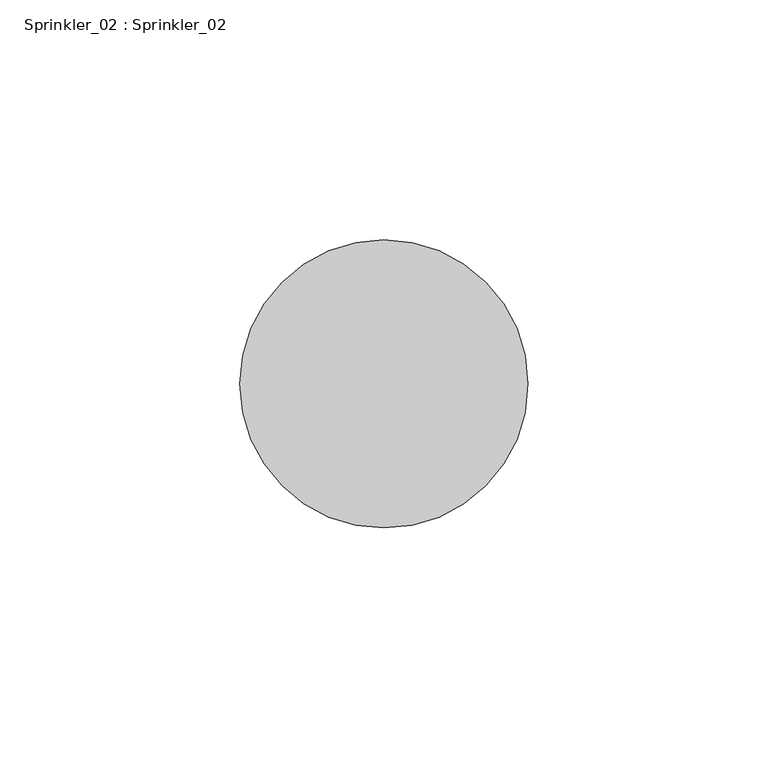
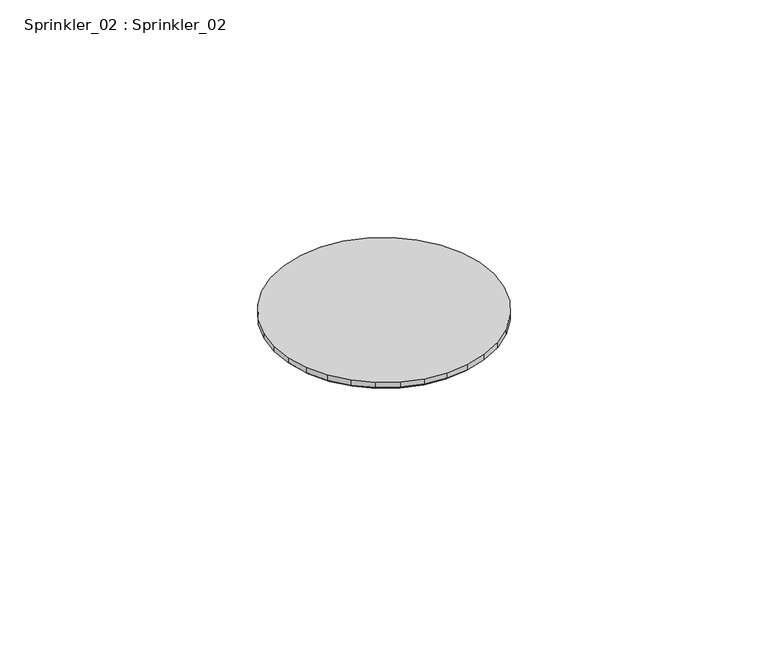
"""IFC4 building model written with IfcOpenShell, lengths in millimetres: fire suppression terminal geometry, Sprinkler_02 : Sprinkler_02."""

from ifc_helpers import new_model, si_unit, frame, origin, place, context, project, spatial, polyline, outline, extrude, faceted_brep, source, transform, mapped, element, save


def sprinkler_02_sprinkler_02_4dfef579(model_context):
    return source(origin(), model_context, "Body", "SolidModel", [
        extrude(outline(polyline([(-2.0098133, -10.1040136), (-3.9423905, -9.5177727), (-5.723464, -8.5657691), (-7.2845879, -7.2845879), (-8.5657691, -5.723464), (-9.5177727, -3.9423905), (-10.1040136, -2.0098133), (-10.301963, 0.0), (-10.1040136, 2.0098133), (-9.5177727, 3.9423905), (-8.5657691, 5.723464), (-7.2845879, 7.2845879), (-5.723464, 8.5657691), (-3.9423905, 9.5177727), (-2.0098133, 10.1040136), (0.0, 10.301963), (2.0098133, 10.1040136), (3.9423905, 9.5177727), (5.723464, 8.5657691), (7.2845879, 7.2845879), (8.5657691, 5.723464), (9.5177727, 3.9423905), (10.1040136, 2.0098133), (10.301963, 0.0), (10.1040136, -2.0098133), (9.5177727, -3.9423905), (8.5657691, -5.723464), (7.2845879, -7.2845879), (5.723464, -8.5657691), (3.9423905, -9.5177727), (2.0098133, -10.1040136), (0.0, -10.301963), (-2.0098133, -10.1040136)])), frame((0.0, 0.0, 3987.9870605), z_axis=(0.0, 0.0, 1.0), x_axis=(1.0, 0.0, 0.0)), (0.0, 0.0, 1.0), 7.3880005),
        extrude(outline(polyline([(-2.4026821, -12.0790986), (-4.7130305, -11.3782621), (-6.8422597, -10.2401653), (-8.7085448, -8.7085448), (-10.2401653, -6.8422597), (-11.3782621, -4.7130305), (-12.0790986, -2.4026821), (-12.3157421, 0.0), (-12.0790986, 2.4026821), (-11.3782621, 4.7130305), (-10.2401653, 6.8422597), (-8.7085448, 8.7085448), (-6.8422597, 10.2401653), (-4.7130305, 11.3782621), (-2.4026821, 12.0790986), (0.0, 12.3157421), (2.4026821, 12.0790986), (4.7130305, 11.3782621), (6.8422597, 10.2401653), (8.7085448, 8.7085448), (10.2401653, 6.8422597), (11.3782621, 4.7130305), (12.0790986, 2.4026821), (12.3157421, 0.0), (12.0790986, -2.4026821), (11.3782621, -4.7130305), (10.2401653, -6.8422597), (8.7085448, -8.7085448), (6.8422597, -10.2401653), (4.7130305, -11.3782621), (2.4026821, -12.0790986), (0.0, -12.3157421), (-2.4026821, -12.0790986)])), frame((0.0, 0.0, 3995.375061), z_axis=(0.0, 0.0, 1.0), x_axis=(1.0, 0.0, 0.0)), (0.0, 0.0, 1.0), 2.3651123),
        faceted_brep([(5.7056686, -28.6843332, 3997.7401733), (0.0, -29.2462925, 3997.7401733), (-5.7056686, -28.6843332, 3997.7401733), (-11.1920716, -27.0200511, 3997.7401733), (-16.2483695, -24.3174035, 3997.7401733), (-20.6802518, -20.6802518, 3997.7401733), (-24.3174035, -16.2483695, 3997.7401733), (-27.0200511, -11.1920716, 3997.7401733), (-28.6843332, -5.7056686, 3997.7401733), (-29.2462925, 0.0, 3997.7401733), (-28.6843332, 5.7056686, 3997.7401733), (-27.0200511, 11.1920716, 3997.7401733), (-24.3174035, 16.2483695, 3997.7401733), (-20.6802518, 20.6802518, 3997.7401733), (-16.2483695, 24.3174035, 3997.7401733), (-11.1920716, 27.0200511, 3997.7401733), (-5.7056686, 28.6843332, 3997.7401733), (0.0, 29.2462925, 3997.7401733), (5.7056686, 28.6843332, 3997.7401733), (11.1920716, 27.0200511, 3997.7401733), (16.2483695, 24.3174035, 3997.7401733), (20.6802518, 20.6802518, 3997.7401733), (24.3174035, 16.2483695, 3997.7401733), (27.0200511, 11.1920716, 3997.7401733), (28.6843332, 5.7056686, 3997.7401733), (29.2462925, 0.0, 3997.7401733), (28.6843332, -5.7056686, 3997.7401733), (27.0200511, -11.1920716, 3997.7401733), (24.3174035, -16.2483695, 3997.7401733), (20.6802518, -20.6802518, 3997.7401733), (16.2483695, -24.3174035, 3997.7401733), (11.1920716, -27.0200511, 3997.7401733), (5.8526797, -29.4234077, 3998.4902954), (0.0, -29.9998463, 3998.4902954), (-5.8526797, -29.4234077, 3998.4902954), (-11.4804442, -27.716244, 3998.4902954), (-16.6670216, -24.9439606, 3998.4902954), (-21.2130948, -21.2130948, 3998.4902954), (-24.9439606, -16.6670216, 3998.4902954), (-27.716244, -11.4804442, 3998.4902954), (-29.4234077, -5.8526797, 3998.4902954), (-29.9998463, 0.0, 3998.4902954), (-29.4234077, 5.8526797, 3998.4902954), (-27.716244, 11.4804442, 3998.4902954), (-24.9439606, 16.6670216, 3998.4902954), (-21.2130948, 21.2130948, 3998.4902954), (-16.6670216, 24.9439606, 3998.4902954), (-11.4804442, 27.716244, 3998.4902954), (-5.8526797, 29.4234077, 3998.4902954), (0.0, 29.9998463, 3998.4902954), (5.8526797, 29.4234077, 3998.4902954), (11.4804442, 27.716244, 3998.4902954), (16.6670216, 24.9439606, 3998.4902954), (21.2130948, 21.2130948, 3998.4902954), (24.9439606, 16.6670216, 3998.4902954), (27.716244, 11.4804442, 3998.4902954), (29.4234077, 5.8526797, 3998.4902954), (29.9998463, 0.0, 3998.4902954), (29.4234077, -5.8526797, 3998.4902954), (27.716244, -11.4804442, 3998.4902954), (24.9439606, -16.6670216, 3998.4902954), (21.2130948, -21.2130948, 3998.4902954), (16.6670216, -24.9439606, 3998.4902954), (11.4804442, -27.716244, 3998.4902954), (5.8526797, -29.4234077, 4000.0), (11.4804442, -27.716244, 4000.0), (16.6670216, -24.9439606, 4000.0), (21.2130948, -21.2130948, 4000.0), (24.9439606, -16.6670216, 4000.0), (27.716244, -11.4804442, 4000.0), (29.4234077, -5.8526797, 4000.0), (29.9998463, 0.0, 4000.0), (29.4234077, 5.8526797, 4000.0), (27.716244, 11.4804442, 4000.0), (24.9439606, 16.6670216, 4000.0), (21.2130948, 21.2130948, 4000.0), (16.6670216, 24.9439606, 4000.0), (11.4804442, 27.716244, 4000.0), (5.8526797, 29.4234077, 4000.0), (0.0, 29.9998463, 4000.0), (-5.8526797, 29.4234077, 4000.0), (-11.4804442, 27.716244, 4000.0), (-16.6670216, 24.9439606, 4000.0), (-21.2130948, 21.2130948, 4000.0), (-24.9439606, 16.6670216, 4000.0), (-27.716244, 11.4804442, 4000.0), (-29.4234077, 5.8526797, 4000.0), (-29.9998463, 0.0, 4000.0), (-29.4234077, -5.8526797, 4000.0), (-27.716244, -11.4804442, 4000.0), (-24.9439606, -16.6670216, 4000.0), (-21.2130948, -21.2130948, 4000.0), (-16.6670216, -24.9439606, 4000.0), (-11.4804442, -27.716244, 4000.0), (-5.8526797, -29.4234077, 4000.0), (0.0, -29.9998463, 4000.0)], [[[0, 1, 2, 3, 4, 5, 6, 7, 8, 9, 10, 11, 12, 13, 14, 15, 16, 17, 18, 19, 20, 21, 22, 23, 24, 25, 26, 27, 28, 29, 30, 31]], [[0, 32, 33, 1]], [[1, 33, 34, 2]], [[2, 34, 35, 3]], [[3, 35, 36, 4]], [[4, 36, 37, 5]], [[5, 37, 38, 6]], [[6, 38, 39, 7]], [[7, 39, 40, 8]], [[8, 40, 41, 9]], [[9, 41, 42, 10]], [[10, 42, 43, 11]], [[11, 43, 44, 12]], [[12, 44, 45, 13]], [[13, 45, 46, 14]], [[14, 46, 47, 15]], [[15, 47, 48, 16]], [[16, 48, 49, 17]], [[17, 49, 50, 18]], [[18, 50, 51, 19]], [[19, 51, 52, 20]], [[20, 52, 53, 21]], [[21, 53, 54, 22]], [[22, 54, 55, 23]], [[23, 55, 56, 24]], [[24, 56, 57, 25]], [[25, 57, 58, 26]], [[26, 58, 59, 27]], [[27, 59, 60, 28]], [[28, 60, 61, 29]], [[29, 61, 62, 30]], [[30, 62, 63, 31]], [[31, 63, 32, 0]], [[64, 65, 66, 67, 68, 69, 70, 71, 72, 73, 74, 75, 76, 77, 78, 79, 80, 81, 82, 83, 84, 85, 86, 87, 88, 89, 90, 91, 92, 93, 94, 95]], [[95, 33, 32, 64]], [[94, 34, 33, 95]], [[93, 35, 34, 94]], [[92, 36, 35, 93]], [[91, 37, 36, 92]], [[90, 38, 37, 91]], [[89, 39, 38, 90]], [[88, 40, 39, 89]], [[87, 41, 40, 88]], [[86, 42, 41, 87]], [[85, 43, 42, 86]], [[84, 44, 43, 85]], [[83, 45, 44, 84]], [[82, 46, 45, 83]], [[81, 47, 46, 82]], [[80, 48, 47, 81]], [[79, 49, 48, 80]], [[78, 50, 49, 79]], [[77, 51, 50, 78]], [[76, 52, 51, 77]], [[75, 53, 52, 76]], [[74, 54, 53, 75]], [[73, 55, 54, 74]], [[72, 56, 55, 73]], [[71, 57, 56, 72]], [[70, 58, 57, 71]], [[69, 59, 58, 70]], [[68, 60, 59, 69]], [[67, 61, 60, 68]], [[66, 62, 61, 67]], [[65, 63, 62, 66]], [[64, 32, 63, 65]]]),
    ])


if __name__ == "__main__":
    model = new_model("IFC4")
    model_context = context("Model", 3, world=origin())
    ifc_project = project(units=[si_unit("LENGTHUNIT", "METRE", prefix="MILLI")], contexts=[model_context])
    site = spatial("IfcSite", under=ifc_project)
    building = spatial("IfcBuilding", under=site)
    placement = place(None, origin())
    sprinkler_02_sprinkler_02_shape = sprinkler_02_sprinkler_02_4dfef579(model_context)
    element("IfcFireSuppressionTerminal", 1, ObjectType="Sprinkler_02 : Sprinkler_02", at=placement, inside=building, context=model_context, shape_type="MappedRepresentation", body=[
        mapped(sprinkler_02_sprinkler_02_shape, transform((0.0, 0.0, 0.0), x_axis=(1.0, 0.0, 0.0), y_axis=(0.0, 1.0, 0.0), z_axis=(0.0, 0.0, 1.0))),
    ])
    save(model, "model.ifc")
